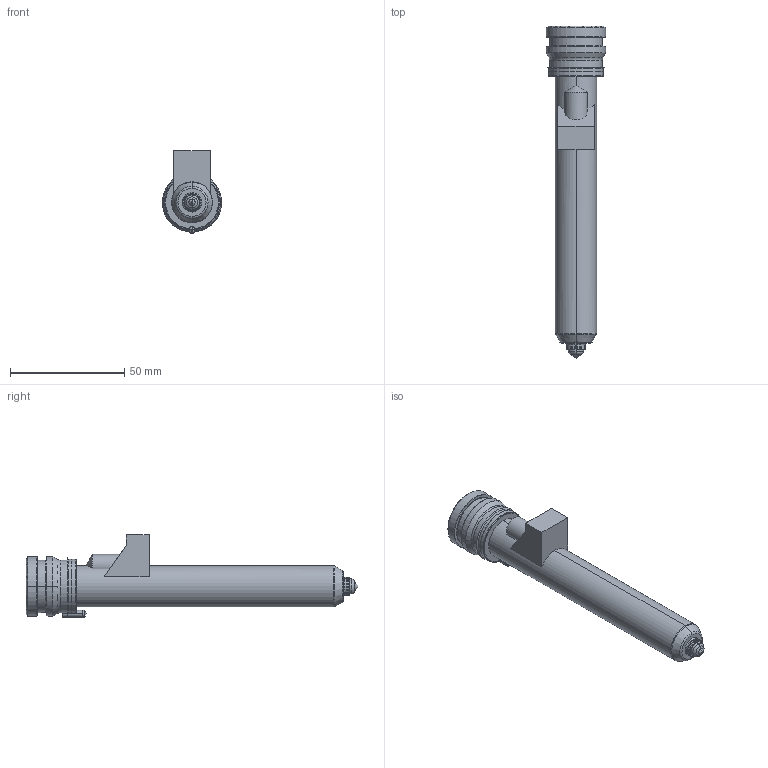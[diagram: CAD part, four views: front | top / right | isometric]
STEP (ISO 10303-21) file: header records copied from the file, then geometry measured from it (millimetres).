
FILE_DESCRIPTION((''),'2;1');
FILE_NAME('TH18127_5-M-1B15-PK-JG','2023-12-14T',('umhib'),('Thermoplay S.p.A.'),'PRO/ENGINEER BY PARAMETRIC TECHNOLOGY CORPORATION, 2017170','PRO/ENGINEER BY PARAMETRIC TECHNOLOGY CORPORATION, 2017170','');
FILE_SCHEMA(('CONFIG_CONTROL_DESIGN'));
Length unit declared in the file: millimetre
Products named in the file (1): TH18127_5-M-1B15-PK-JG
Bounding box: 26 x 145.5 x 36.1 mm (x, y, z)
Volume: 29696.4 mm3; surface area: 22599 mm2
Topology: 1 solids, 2 shells, 393 faces, 1003 edges, 615 vertices
Faces by surface type: cylinder 149, plane 87, cone 64, torus 58, bspline 22, sphere 11, extrusion 2
Entity records: 16875 total; most frequent: CARTESIAN_POINT 5192, DIRECTION 2010, ORIENTED_EDGE 1980, EDGE_CURVE 992, AXIS2_PLACEMENT_3D 810, VERTEX_POINT 615, CIRCLE 440, EDGE_LOOP 416
